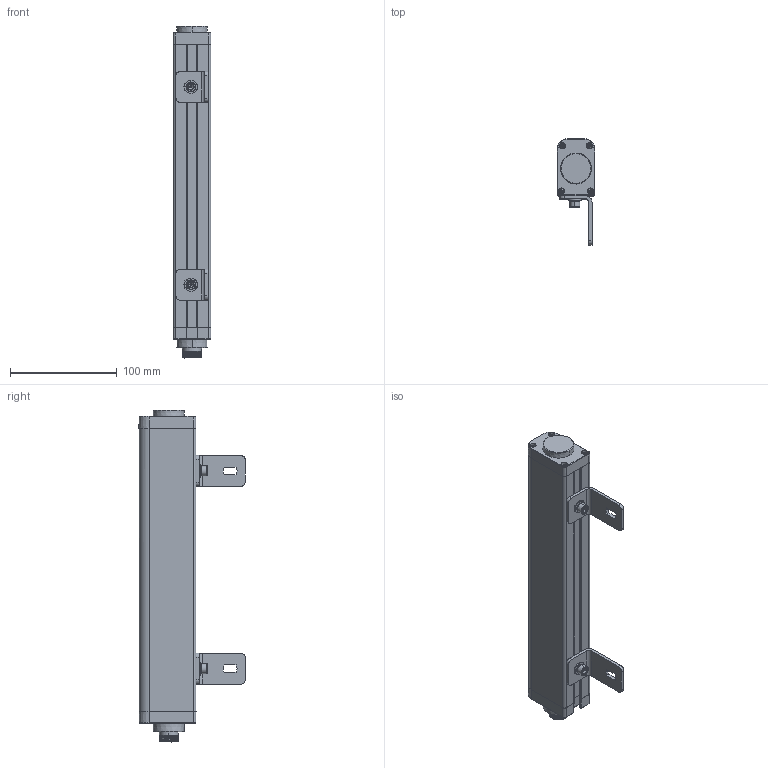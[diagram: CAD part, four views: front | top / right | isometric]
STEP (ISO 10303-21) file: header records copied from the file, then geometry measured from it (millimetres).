
FILE_DESCRIPTION((''),'2;1');
FILE_NAME('ESE8420_ASM','2021-07-12T12:22:44',('18720616900'),(''),'CREO PARAMETRIC BY PTC INC, 2019010','CREO PARAMETRIC BY PTC INC, 2019010','');
FILE_SCHEMA(('CONFIG_CONTROL_DESIGN'));
Length unit declared in the file: millimetre
Products named in the file (15): ESE--00; 000; ESE--000; HKCT2-1-SOLID1; HKCT11-1-SOLID1; 6_10001_ASM; ST-3-120001; L10001; M6-1-00; M6-1--00; M6-8--0001; 00; L1--0001_ASM; ESE8420_ASM
Assembly tree (22 placements, depth 3):
  ESE8420_ASM
    ESE--00
    000
    ESE--000
    ESE--000
    6_10001_ASM
      HKCT2-1-SOLID1
      HKCT11-1-SOLID1
    ST-3-120001  x8
    L1--0001_ASM  x2
      L10001
      M6-1-00
      M6-1--00
      M6-8--0001
      00
Bounding box: 35.3 x 99.3 x 310.58 mm (x, y, z)
Volume: 513854.5 mm3; surface area: 98953.7 mm2
Topology: 24 solids, 24 shells, 1203 faces, 3161 edges, 2022 vertices
Faces by surface type: plane 340, cylinder 306, cone 246, bspline 233, torus 64, sphere 14
Entity records: 41666 total; most frequent: CARTESIAN_POINT 27268, ORIENTED_EDGE 3088, DIRECTION 2720, EDGE_CURVE 1544, AXIS2_PLACEMENT_3D 1052, VERTEX_POINT 1019, EDGE_LOOP 661, VECTOR 616
